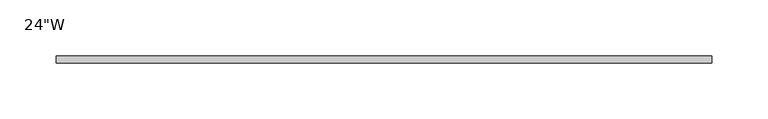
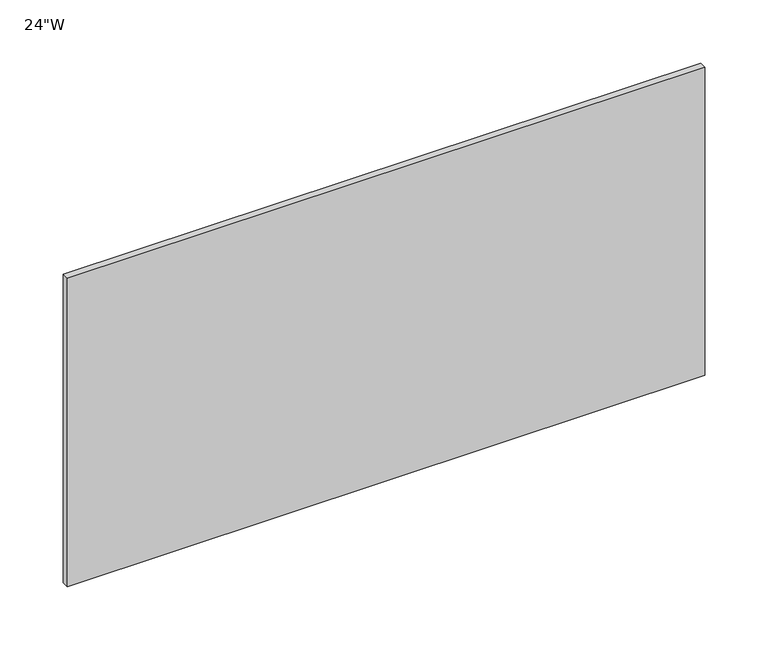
"""IFC4 building model written with IfcOpenShell, lengths in millimetres: furniture geometry."""

from ifc_helpers import new_model, si_unit, frame, origin, place, context, project, spatial, polyline, outline, extrude, source, transform, mapped, element, save


def furniture_f8b3439c(model_context):
    return source(origin(), model_context, "Body", "SweptSolid", [
        extrude(outline(polyline([(292.1, -6.35), (-292.1, -6.35), (-292.1, 0.0), (292.1, 0.0), (292.1, -6.35)])), frame((0.0, 0.0, 1809.75), z_axis=(0.0, 0.0, 1.0), x_axis=(1.0, 0.0, 0.0)), (0.0, 0.0, 1.0), 298.45),
    ])


if __name__ == "__main__":
    model = new_model("IFC4")
    model_context = context("Model", 3, world=origin())
    ifc_project = project(units=[si_unit("LENGTHUNIT", "METRE", prefix="MILLI")], contexts=[model_context])
    site = spatial("IfcSite", under=ifc_project)
    building = spatial("IfcBuilding", under=site)
    placement = place(None, origin())
    furniture_shape = furniture_f8b3439c(model_context)
    element("IfcFurniture", 1, ObjectType="HermanMiller_ActionOffice_A3390_B-StyleFlipperDoorBackPanel : 24\"W", at=placement, inside=building, context=model_context, shape_type="MappedRepresentation", body=[
        mapped(furniture_shape, transform((0.0, 0.0, 0.0), x_axis=(1.0, 0.0, 0.0), y_axis=(0.0, 1.0, 0.0), z_axis=(0.0, 0.0, 1.0))),
    ])
    save(model, "model.ifc")
